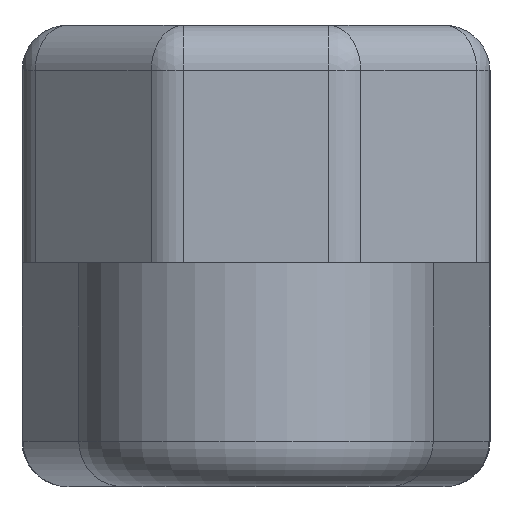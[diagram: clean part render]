
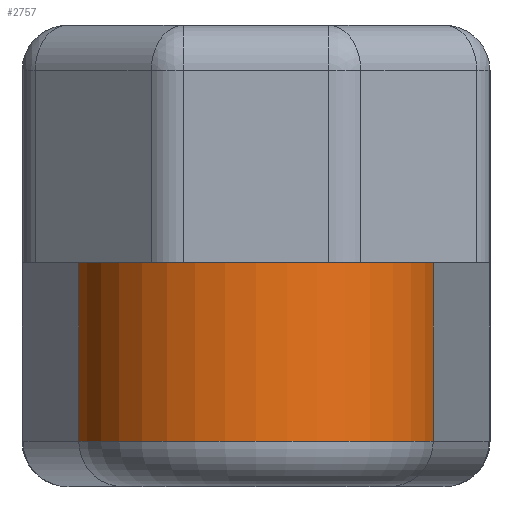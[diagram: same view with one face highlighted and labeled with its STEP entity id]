
A CAD part, left-side view. The second image highlights one B-rep face of the part: STEP entity #2757.
In plain terms, the highlighted cylindrical face has radius 8 mm (diameter 16 mm), a partial arc.
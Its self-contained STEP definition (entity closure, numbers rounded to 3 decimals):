
#71 = VERTEX_POINT ( 'NONE', #2992 ) ;
#135 = CARTESIAN_POINT ( 'NONE',  ( -1.595, -7.839, 20.4 ) ) ;
#278 = DIRECTION ( 'NONE',  ( -1., 0., 0. ) ) ;
#347 = CARTESIAN_POINT ( 'NONE',  ( 0., 0., 20.4 ) ) ;
#403 = EDGE_CURVE ( 'NONE', #1960, #2461, #2013, .T. ) ;
#406 = CARTESIAN_POINT ( 'NONE',  ( -1.595, -7.839, 9.9 ) ) ;
#508 = CARTESIAN_POINT ( 'NONE',  ( 0., 0., 9.9 ) ) ;
#547 = DIRECTION ( 'NONE',  ( -1., 0., 0. ) ) ;
#713 = CARTESIAN_POINT ( 'NONE',  ( -1.595, 7.839, 9.9 ) ) ;
#913 = DIRECTION ( 'NONE',  ( 1., 0., 0. ) ) ;
#1063 = VECTOR ( 'NONE', #2128, 1000. ) ;
#1201 = VERTEX_POINT ( 'NONE', #713 ) ;
#1219 = ORIENTED_EDGE ( 'NONE', *, *, #1762, .T. ) ;
#1229 = CARTESIAN_POINT ( 'NONE',  ( -1.595, -7.839, 2. ) ) ;
#1278 = VECTOR ( 'NONE', #1522, 1000. ) ;
#1290 = EDGE_CURVE ( 'NONE', #71, #1960, #1783, .T. ) ;
#1432 = EDGE_CURVE ( 'NONE', #1201, #2461, #1447, .T. ) ;
#1447 = CIRCLE ( 'NONE', #1537, 8. ) ;
#1470 = AXIS2_PLACEMENT_3D ( 'NONE', #347, #2177, #547 ) ;
#1522 = DIRECTION ( 'NONE',  ( 0., 0., 1. ) ) ;
#1537 = AXIS2_PLACEMENT_3D ( 'NONE', #508, #2119, #278 ) ;
#1543 = ORIENTED_EDGE ( 'NONE', *, *, #403, .T. ) ;
#1578 = ORIENTED_EDGE ( 'NONE', *, *, #1432, .F. ) ;
#1762 = EDGE_CURVE ( 'NONE', #1201, #71, #1880, .T. ) ;
#1783 = CIRCLE ( 'NONE', #2761, 8. ) ;
#1880 = LINE ( 'NONE', #2540, #1063 ) ;
#1960 = VERTEX_POINT ( 'NONE', #1229 ) ;
#2013 = LINE ( 'NONE', #135, #1278 ) ;
#2058 = CARTESIAN_POINT ( 'NONE',  ( 0., 0., 2. ) ) ;
#2080 = EDGE_LOOP ( 'NONE', ( #1219, #2949, #1543, #1578 ) ) ;
#2119 = DIRECTION ( 'NONE',  ( 0., 0., 1. ) ) ;
#2128 = DIRECTION ( 'NONE',  ( 0., 0., -1. ) ) ;
#2177 = DIRECTION ( 'NONE',  ( 0., 0., -1. ) ) ;
#2461 = VERTEX_POINT ( 'NONE', #406 ) ;
#2536 = DIRECTION ( 'NONE',  ( 0., 0., 1. ) ) ;
#2540 = CARTESIAN_POINT ( 'NONE',  ( -1.595, 7.839, 20.4 ) ) ;
#2647 = CYLINDRICAL_SURFACE ( 'NONE', #1470, 8. ) ;
#2676 = FACE_OUTER_BOUND ( 'NONE', #2080, .T. ) ;
#2757 = ADVANCED_FACE ( 'NONE', ( #2676 ), #2647, .T. ) ;
#2761 = AXIS2_PLACEMENT_3D ( 'NONE', #2058, #2536, #913 ) ;
#2949 = ORIENTED_EDGE ( 'NONE', *, *, #1290, .T. ) ;
#2992 = CARTESIAN_POINT ( 'NONE',  ( -1.595, 7.839, 2. ) ) ;
